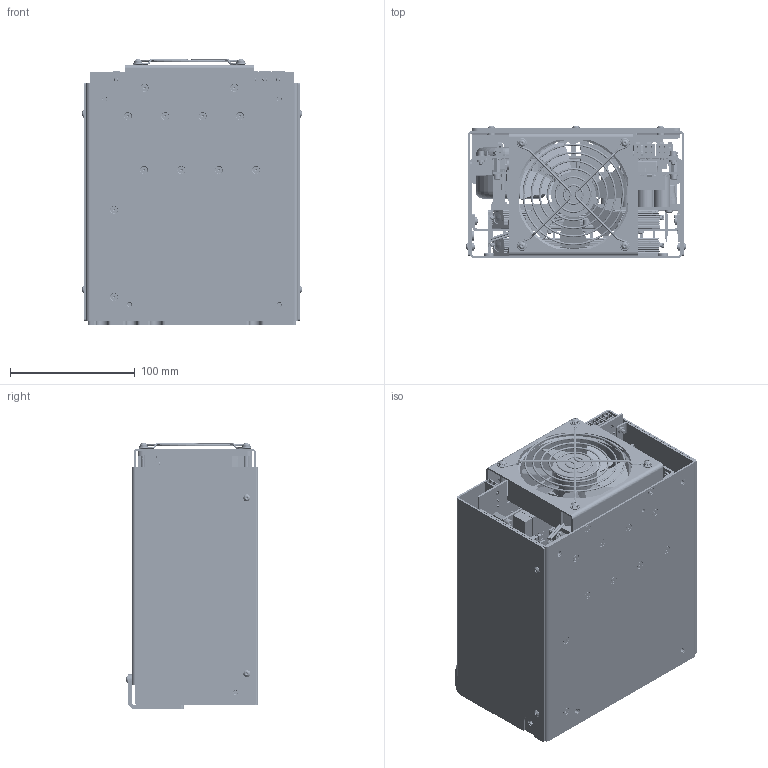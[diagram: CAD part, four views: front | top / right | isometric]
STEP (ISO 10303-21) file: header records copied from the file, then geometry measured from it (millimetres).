
FILE_DESCRIPTION (( 'STEP AP214' ), '1' );
FILE_NAME ('480.00.00.000-A01_NBU-1312.STEP', '2025-04-28T12:26:55', ( '' ), ( '' ), 'SwSTEP 2.0', 'SolidWorks 2019', '' );
FILE_SCHEMA (( 'AUTOMOTIVE_DESIGN' ));
Length unit declared in the file: millimetre
Products named in the file (45): 480.00.04.000-A01_Áëîê âåíòèëÿòîðà; 妈眚 󊙅2 DIN912; 妈眚 󉱭0 ISO7380; IGBT FZ600R17KE4; 妈眚 󉱲 ISO7380 (2018); Ãàéêà Ì3 DIN934; ﾘ琺矜 ﾌ6 DIN127; 栺鍣罻 PCHSN-11; ﾘ琺矜 ﾌ5 DIN127; 妈眚 󊬱6 DIN912; 480.00.02.101-A01_ﾊ煇鳫; Ãàéêà CN clinch nut M3; SBZ70 revA; 480.00.02.100-A01_Êðîíøòåéí â ñáîðå; 480.00.01.000-A01_Êîðïóñ â ñáîðå; ﾘ琺矜 ﾌ6 DIN125; 480.00.04.001-A01_ﾊ煇鳫; Ðåøåòêà FG-09; 480.00.01.001-A01_扻豵鵨_-00SM-FLAT-PATTERN; 480.00.03.001-A01_砑僔蠂縺; 480.00.00.001-A01_冓儰僗闉; PF92252V3-1000U-A99; 480.00.05.000-A01_Êðûøêà â ñáîðå; 480.00.02.000-A01_Ðàäèàòîð â ñáîðå; 妈眚 󉱴 DIN912 (2018); ﾘ琺矜 ﾌ3 DIN127 (2018); 480.00.00.000-A01_NBU-1312; 妈眚 󉱴 DIN912; 妈眚 󉱲 DIN7991; ﾘ琺矜 ﾌ3 DIN125; Âòóëêà ðåçüá. íåïîëíîïðîõ. BSO-M3-25 ZI; ﾘ琺矜 ﾌ5 DIN125; ﾘ琺矜 ﾌ3 DIN127; Ãàéêà CN clinch nut M3 (2018); 妈眚 󉱴 DIN7991; 480.00.03.000-A01_Ïëàñòèíà â ñáîðå; 480.00.05.001-A01_Êðûøêà; Ãàéêà CN clinch nut M4 (2018); 480.00.00.002-A01_Êðûøêà_-00; TRignition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
Assembly tree (234 placements, depth 4):
  480.00.00.000-A01_NBU-1312
    480.00.01.000-A01_Êîðïóñ â ñáîðå
      480.00.01.001-A01_扻豵鵨_-00SM-FLAT-PATTERN
      Ãàéêà CN clinch nut M3 (2018)  x7
      Ãàéêà CN clinch nut M4 (2018)  x5
    480.00.02.000-A01_Ðàäèàòîð â ñáîðå
      480.00.02.100-A01_Êðîíøòåéí â ñáîðå
        480.00.02.101-A01_ﾊ煇鳫
        Ãàéêà CN clinch nut M3  x2
      480.00.02.001-A01_冓儰僗闉
      妈眚 󉱲 DIN7991  x3
    480.00.03.000-A01_Ïëàñòèíà â ñáîðå
      480.00.03.001-A01_砑僔蠂縺
      Ãàéêà CN clinch nut M3  x12
    480.00.04.000-A01_Áëîê âåíòèëÿòîðà
      480.00.04.001-A01_ﾊ煇鳫
      PF92252V3-1000U-A99
      Ðåøåòêà FG-09
      Ãàéêà CN clinch nut M3 (2018)  x4
      Âòóëêà ðåçüá. íåïîëíîïðîõ. BSO-M3-25 ZI  x4
      ﾘ琺矜 ﾌ3 DIN125 (2018)  x4
      ﾘ琺矜 ﾌ3 DIN127 (2018)  x4
      妈眚 󉱭0 ISO7380  x4
    480.00.05.000-A01_Êðûøêà â ñáîðå
      480.00.05.001-A01_Êðûøêà
      Ãàéêà CN clinch nut M3 (2018)  x3
    480.00.00.001-A01_冓儰僗闉
    480.00.00.002-A01_Êðûøêà_-00
    IGBT FZ600R17KE4
    Resistor AH-50  x8
    SBD revE(_)
    SBZ70 revA
    TRignition
    ﾘ琺矜 ﾌ3 DIN125 (2018)  x9
    ﾘ琺矜 ﾌ3 DIN127 (2018)  x9
    妈眚 󉱴 DIN912 (2018)  x9
    妈眚 󉱲 ISO7380 (2018)  x7
    妈眚 󉱲 DIN7991  x13
    ﾘ琺矜 ﾌ5 DIN125  x4
    ﾘ琺矜 ﾌ5 DIN127  x4
    妈眚 󊙅2 DIN912  x4
    ﾘ琺矜 ﾌ6 DIN125  x6
    ﾘ琺矜 ﾌ6 DIN127  x6
    妈眚 󊬱2 DIN912  x2
    妈眚 󊬱6 DIN912  x4
    栺鍣罻 PCHSN-11  x3
    ﾘ琺矜 ﾌ3 DIN125  x22
    ﾘ琺矜 ﾌ3 DIN127  x22
    Ãàéêà Ì3 DIN934  x11
    妈眚 󉱴 DIN912  x11
    妈眚 󉱴 DIN7991  x8
Bounding box: 176.8 x 106.15 x 213.75 mm (x, y, z)
Volume: 789694.7 mm3; surface area: 775361 mm2
Topology: 219 solids, 1636 shells, 15897 faces, 53606 edges, 39386 vertices
Faces by surface type: plane 7014, cylinder 6239, bspline 1494, cone 879, torus 218, sphere 53
Entity records: 557527 total; most frequent: CARTESIAN_POINT 215183, ORIENTED_EDGE 50936, DIRECTION 47932, EDGE_CURVE 35233, VERTEX_POINT 27937, LINE 20652, VECTOR 20652, AXIS2_PLACEMENT_3D 13640
